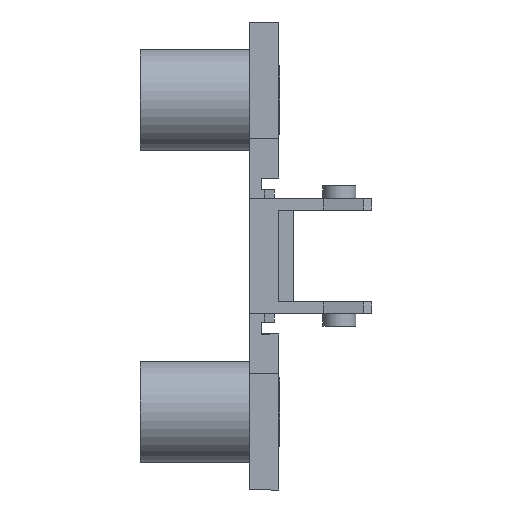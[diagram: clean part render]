
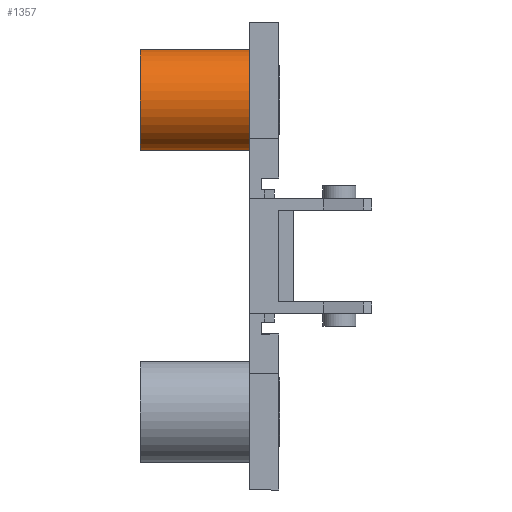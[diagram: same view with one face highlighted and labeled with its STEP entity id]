
A CAD part, front view. The second image highlights one B-rep face of the part: STEP entity #1357.
In plain terms, the highlighted cylindrical face has radius 5.2 mm (diameter 10.4 mm), a partial arc.
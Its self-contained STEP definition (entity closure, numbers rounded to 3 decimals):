
#35 = DIRECTION ( 'NONE',  ( 1., 0., 0. ) ) ;
#250 = DIRECTION ( 'NONE',  ( 1., 0., 0. ) ) ;
#526 = CARTESIAN_POINT ( 'NONE',  ( -13.2, -9., 10.8 ) ) ;
#671 = EDGE_LOOP ( 'NONE', ( #3164, #1100, #1832, #2054 ) ) ;
#675 = VECTOR ( 'NONE', #2343, 1000. ) ;
#970 = CARTESIAN_POINT ( 'NONE',  ( -13.2, -9., 21.2 ) ) ;
#1096 = DIRECTION ( 'NONE',  ( 0., 0., -1. ) ) ;
#1100 = ORIENTED_EDGE ( 'NONE', *, *, #1963, .F. ) ;
#1108 = CARTESIAN_POINT ( 'NONE',  ( -2., -9., 10.8 ) ) ;
#1140 = DIRECTION ( 'NONE',  ( -1., 0., 0. ) ) ;
#1213 = EDGE_CURVE ( 'NONE', #2771, #1785, #2990, .T. ) ;
#1357 = ADVANCED_FACE ( 'NONE', ( #1873 ), #2162, .T. ) ;
#1470 = DIRECTION ( 'NONE',  ( -1., 0., 0. ) ) ;
#1502 = VERTEX_POINT ( 'NONE', #2222 ) ;
#1662 = AXIS2_PLACEMENT_3D ( 'NONE', #2506, #1470, #2583 ) ;
#1727 = EDGE_CURVE ( 'NONE', #1785, #1502, #2797, .T. ) ;
#1756 = CARTESIAN_POINT ( 'NONE',  ( -13.2, -9., 21.2 ) ) ;
#1785 = VERTEX_POINT ( 'NONE', #1108 ) ;
#1832 = ORIENTED_EDGE ( 'NONE', *, *, #1213, .T. ) ;
#1868 = AXIS2_PLACEMENT_3D ( 'NONE', #2200, #35, #2189 ) ;
#1873 = FACE_OUTER_BOUND ( 'NONE', #671, .T. ) ;
#1930 = CARTESIAN_POINT ( 'NONE',  ( -2., -9., 16. ) ) ;
#1963 = EDGE_CURVE ( 'NONE', #2771, #3222, #3215, .T. ) ;
#2054 = ORIENTED_EDGE ( 'NONE', *, *, #1727, .T. ) ;
#2072 = EDGE_CURVE ( 'NONE', #3222, #1502, #3350, .T. ) ;
#2157 = AXIS2_PLACEMENT_3D ( 'NONE', #1930, #1140, #1096 ) ;
#2162 = CYLINDRICAL_SURFACE ( 'NONE', #1868, 5.2 ) ;
#2189 = DIRECTION ( 'NONE',  ( 0., 0., -1. ) ) ;
#2200 = CARTESIAN_POINT ( 'NONE',  ( -13.2, -9., 16. ) ) ;
#2222 = CARTESIAN_POINT ( 'NONE',  ( -2., -9., 21.2 ) ) ;
#2245 = VECTOR ( 'NONE', #250, 1000. ) ;
#2343 = DIRECTION ( 'NONE',  ( 1., 0., 0. ) ) ;
#2506 = CARTESIAN_POINT ( 'NONE',  ( -13.2, -9., 16. ) ) ;
#2583 = DIRECTION ( 'NONE',  ( 0., 0., 1. ) ) ;
#2662 = CARTESIAN_POINT ( 'NONE',  ( -13.2, -9., 10.8 ) ) ;
#2771 = VERTEX_POINT ( 'NONE', #2662 ) ;
#2797 = CIRCLE ( 'NONE', #2157, 5.2 ) ;
#2990 = LINE ( 'NONE', #526, #2245 ) ;
#3164 = ORIENTED_EDGE ( 'NONE', *, *, #2072, .F. ) ;
#3215 = CIRCLE ( 'NONE', #1662, 5.2 ) ;
#3222 = VERTEX_POINT ( 'NONE', #970 ) ;
#3350 = LINE ( 'NONE', #1756, #675 ) ;
